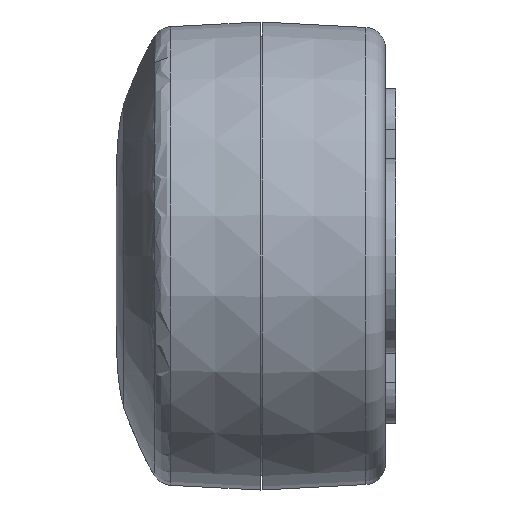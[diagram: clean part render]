
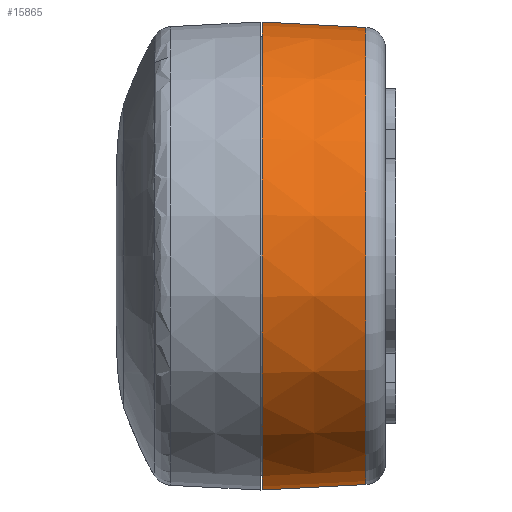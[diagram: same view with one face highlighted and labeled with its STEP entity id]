
A CAD part, left-side view. The second image highlights one B-rep face of the part: STEP entity #15865.
In plain terms, the highlighted conical face has half-angle 3 degrees and reference radius 11.4 mm.
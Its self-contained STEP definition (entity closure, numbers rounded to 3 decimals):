
#3589 = EDGE_CURVE ( 'NONE', #11414, #33403, #4048, .T. ) ;
#4048 = CIRCLE ( 'NONE', #9633, 11.4 ) ;
#5673 = EDGE_LOOP ( 'NONE', ( #24316, #17151, #17359, #28343 ) ) ;
#6297 = LINE ( 'NONE', #38268, #11695 ) ;
#6993 = DIRECTION ( 'NONE',  ( 0., 0., 1. ) ) ;
#7176 = DIRECTION ( 'NONE',  ( 0., 0.999, 0.052 ) ) ;
#7739 = CARTESIAN_POINT ( 'NONE',  ( 24.88, 0., 11.4 ) ) ;
#8870 = DIRECTION ( 'NONE',  ( 0., 0., 1. ) ) ;
#9241 = VECTOR ( 'NONE', #7176, 1000. ) ;
#9633 = AXIS2_PLACEMENT_3D ( 'NONE', #30905, #33426, #37113 ) ;
#9806 = AXIS2_PLACEMENT_3D ( 'NONE', #18340, #32483, #8870 ) ;
#9892 = CARTESIAN_POINT ( 'NONE',  ( 24.88, 0., 0. ) ) ;
#11414 = VERTEX_POINT ( 'NONE', #7739 ) ;
#11695 = VECTOR ( 'NONE', #15211, 1000. ) ;
#12262 = CARTESIAN_POINT ( 'NONE',  ( 24.88, -5.052, 11.135 ) ) ;
#14322 = VERTEX_POINT ( 'NONE', #17740 ) ;
#15211 = DIRECTION ( 'NONE',  ( 0., 0.999, -0.052 ) ) ;
#15865 = ADVANCED_FACE ( 'NONE', ( #36416 ), #36015, .T. ) ;
#17151 = ORIENTED_EDGE ( 'NONE', *, *, #32115, .T. ) ;
#17359 = ORIENTED_EDGE ( 'NONE', *, *, #32649, .T. ) ;
#17740 = CARTESIAN_POINT ( 'NONE',  ( 24.88, -5.052, -11.135 ) ) ;
#18340 = CARTESIAN_POINT ( 'NONE',  ( 24.88, -5.052, 0. ) ) ;
#19116 = CARTESIAN_POINT ( 'NONE',  ( 24.88, 0., -11.4 ) ) ;
#24316 = ORIENTED_EDGE ( 'NONE', *, *, #33230, .F. ) ;
#28343 = ORIENTED_EDGE ( 'NONE', *, *, #3589, .F. ) ;
#28441 = CARTESIAN_POINT ( 'NONE',  ( 24.88, 0., 11.4 ) ) ;
#30905 = CARTESIAN_POINT ( 'NONE',  ( 24.88, 0., 0. ) ) ;
#32115 = EDGE_CURVE ( 'NONE', #35306, #14322, #35755, .T. ) ;
#32329 = AXIS2_PLACEMENT_3D ( 'NONE', #9892, #33506, #6993 ) ;
#32483 = DIRECTION ( 'NONE',  ( 0., 1., 0. ) ) ;
#32649 = EDGE_CURVE ( 'NONE', #14322, #33403, #6297, .T. ) ;
#33230 = EDGE_CURVE ( 'NONE', #35306, #11414, #33693, .T. ) ;
#33403 = VERTEX_POINT ( 'NONE', #19116 ) ;
#33426 = DIRECTION ( 'NONE',  ( 0., 1., 0. ) ) ;
#33506 = DIRECTION ( 'NONE',  ( 0., 1., 0. ) ) ;
#33693 = LINE ( 'NONE', #28441, #9241 ) ;
#35306 = VERTEX_POINT ( 'NONE', #12262 ) ;
#35755 = CIRCLE ( 'NONE', #9806, 11.135 ) ;
#36015 = CONICAL_SURFACE ( 'NONE', #32329, 11.4, 0.052 ) ;
#36416 = FACE_OUTER_BOUND ( 'NONE', #5673, .T. ) ;
#37113 = DIRECTION ( 'NONE',  ( 0., 0., 1. ) ) ;
#38268 = CARTESIAN_POINT ( 'NONE',  ( 24.88, 0., -11.4 ) ) ;
